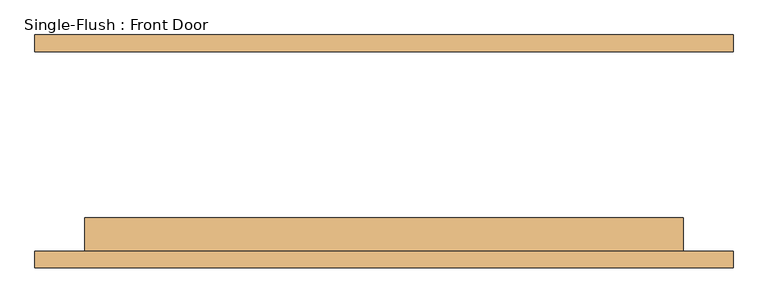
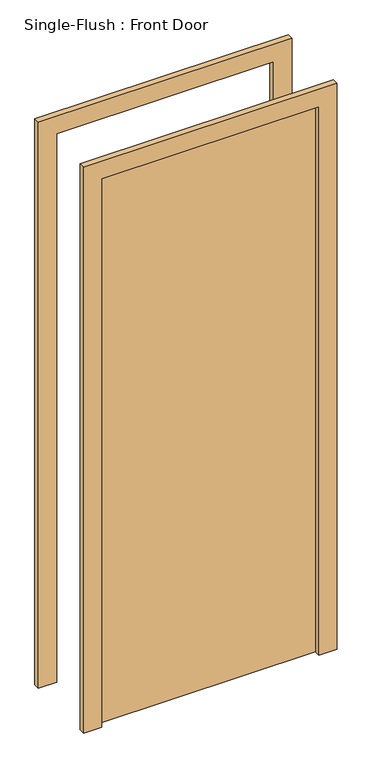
"""IFC4 building model written with IfcOpenShell, lengths in millimetres: door geometry, Single-Flush : Front Door."""

from ifc_helpers import new_model, si_unit, frame, origin, origin_with_axes, place, context, project, spatial, polyline, outline, extrude, source, transform, mapped, element, save


def single_flush_front_door_b84d2d09(model_context):
    return source(origin(), model_context, "Body", "SweptSolid", [
        extrude(outline(polyline([(2514.6, -533.4), (0.0, -533.4), (0.0, -457.2), (2438.4, -457.2), (2438.4, 457.2), (0.0, 457.2), (0.0, 533.4), (2514.6, 533.4), (2514.6, -533.4)])), frame((0.0, -177.8, 0.0), z_axis=(0.0, 1.0, 0.0), x_axis=(0.0, 0.0, 1.0)), (0.0, 0.0, 1.0), 25.4),
        extrude(outline(polyline([(2514.6, 533.4), (2514.6, -533.4), (0.0, -533.4), (0.0, -457.2), (2438.4, -457.2), (2438.4, 457.2), (0.0, 457.2), (0.0, 533.4), (2514.6, 533.4)])), frame((0.0, 152.4, 0.0), z_axis=(0.0, 1.0, 0.0), x_axis=(0.0, 0.0, 1.0)), (0.0, 0.0, 1.0), 25.4),
        extrude(outline(polyline([(457.2, -101.6), (457.2, -152.4), (-457.2, -152.4), (-457.2, -101.6), (457.2, -101.6)])), origin_with_axes(), (0.0, 0.0, 1.0), 2438.4),
    ])


if __name__ == "__main__":
    model = new_model("IFC4")
    model_context = context("Model", 3, world=origin())
    ifc_project = project(units=[si_unit("LENGTHUNIT", "METRE", prefix="MILLI")], contexts=[model_context])
    site = spatial("IfcSite", under=ifc_project)
    building = spatial("IfcBuilding", under=site)
    placement = place(None, origin())
    single_flush_front_door_shape = single_flush_front_door_b84d2d09(model_context)
    element("IfcDoor", 1, ObjectType="Single-Flush : Front Door", at=placement, inside=building, context=model_context, shape_type="MappedRepresentation", body=[
        mapped(single_flush_front_door_shape, transform((0.0, 0.0, 0.0), x_axis=(1.0, 0.0, 0.0), y_axis=(0.0, 1.0, 0.0), z_axis=(0.0, 0.0, 1.0))),
    ])
    save(model, "model.ifc")
